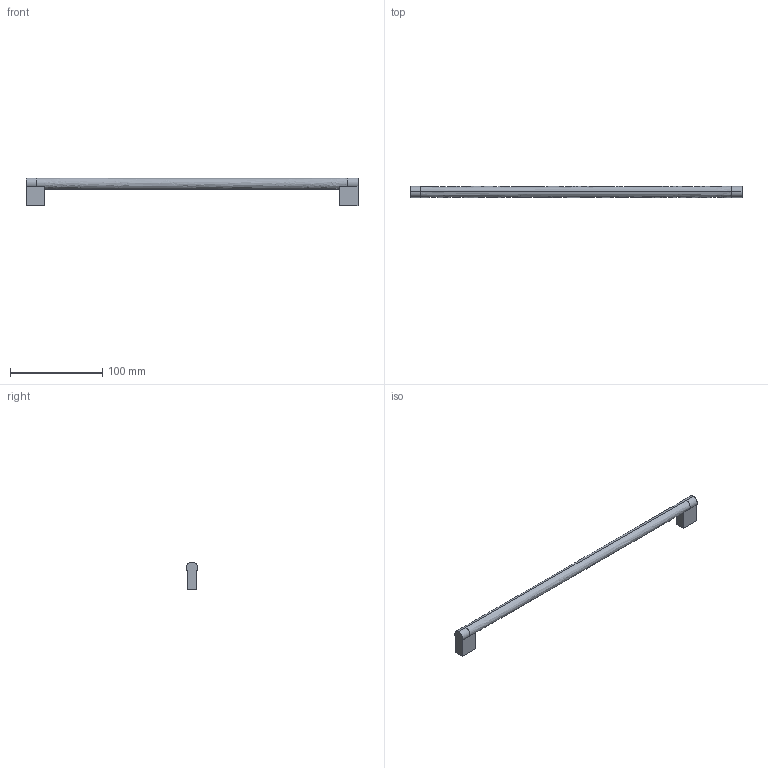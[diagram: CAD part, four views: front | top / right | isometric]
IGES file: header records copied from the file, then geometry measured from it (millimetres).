
Start section: Data from XPlus IGES,  Spatial Corp. Copyright (c) 1999-2004
Global section: file name:  9069959.igs; native system:  By Spatial Corp.; preprocessor: XPlus ACIS/IGES 3.0; author: Noname; organization: Noname; date: 20130226.191108; units: millimetre
Bounding box: 360 x 12 x 30 mm (x, y, z)
Surface area: 16925.5 mm2 (no closed solid volume)
Topology: 0 solids, 0 shells, 30 faces, 140 edges, 140 vertices
Faces by surface type: extrusion 16, revolution 14
